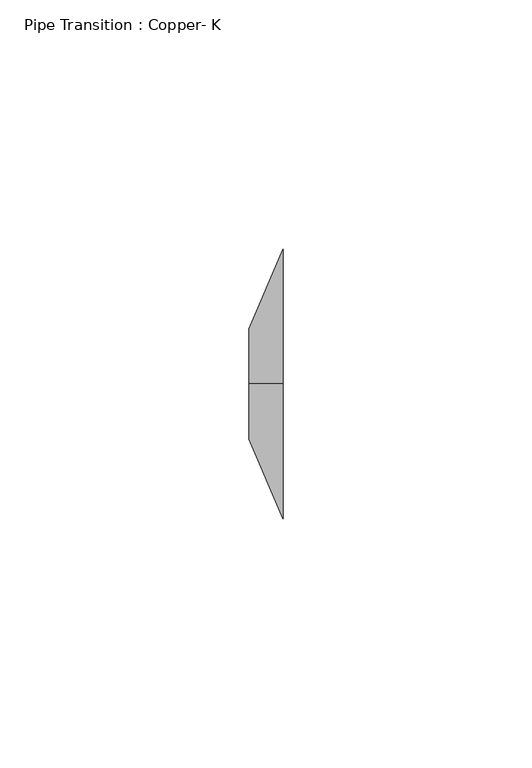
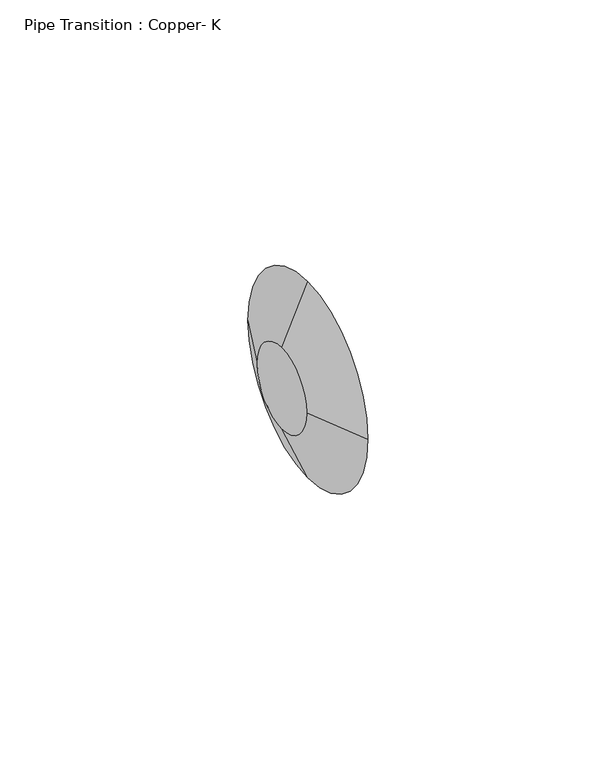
"""IFC4 building model written with IfcOpenShell, lengths in millimetres: pipe fitting geometry, Pipe Transition : Copper- K."""

from ifc_helpers import new_model, si_unit, frame, origin, place, context, project, spatial, polyline, circle_curve, source, transform, mapped, element, save
from ifc_brep_helpers import plane_surface, revolved_surface, advanced_brep


def pipe_transition_copper_k_7e8567c1(model_context):
    return source(origin(), model_context, "Body", "AdvancedBrep", [
        advanced_brep(
        [(6.746875, 0.0, 26.9875), (6.746875, -26.9875, 0.0), (6.746875, 0.0, -26.9875), (6.746875, 26.9875, 0.0), (0.0, 0.0, 11.1125), (0.0, 11.1125, 0.0), (0.0, 0.0, -11.1125), (0.0, -11.1125, 0.0)],
        [
            (0, 1, circle_curve(frame((6.746875, 0.0, 0.0), z_axis=(1.0, 0.0, 0.0), x_axis=(0.0, 0.0, 1.0)), 26.9875)),
            (1, 2, circle_curve(frame((6.746875, 0.0, 0.0), z_axis=(1.0, 0.0, 0.0), x_axis=(0.0, -1.0, 0.0)), 26.9875)),
            (2, 3, circle_curve(frame((6.746875, 0.0, 0.0), z_axis=(1.0, 0.0, 0.0), x_axis=(0.0, 0.0, -1.0)), 26.9875)),
            (3, 0, circle_curve(frame((6.746875, 0.0, 0.0), z_axis=(1.0, 0.0, 0.0), x_axis=(0.0, 1.0, 0.0)), 26.9875)),
            (4, 5, circle_curve(frame((0.0, 0.0, 0.0), z_axis=(-1.0, 0.0, 0.0), x_axis=(0.0, 1.0, 0.0)), 11.1125)),
            (5, 6, circle_curve(frame((0.0, 0.0, 0.0), z_axis=(-1.0, 0.0, 0.0), x_axis=(0.0, 0.0, -1.0)), 11.1125)),
            (6, 7, circle_curve(frame((0.0, 0.0, 0.0), z_axis=(-1.0, 0.0, 0.0), x_axis=(0.0, -1.0, 0.0)), 11.1125)),
            (7, 4, circle_curve(frame((0.0, 0.0, 0.0), z_axis=(-1.0, 0.0, 0.0), x_axis=(0.0, 0.0, 1.0)), 11.1125)),
            (7, 1),
            (0, 4),
            (6, 2),
            (5, 3),
        ],
        [
            plane_surface(frame((6.746875, 0.0, 0.0), z_axis=(1.0, 0.0, 0.0), x_axis=(0.0, -1.0, 0.0))),
            plane_surface(frame((0.0, 0.0, 0.0), z_axis=(-1.0, 0.0, 0.0), x_axis=(0.0, -1.0, 0.0))),
            revolved_surface(polyline([(0.0, -11.1125, 0.0), (6.746874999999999, -26.9875, 0.0)]), (-4.7228125, 0.0, 0.0), (1.0, 0.0, 0.0)),
            revolved_surface(polyline([(0.0, 0.0, -11.1125), (6.746874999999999, 0.0, -26.9875)]), (-4.7228125, 0.0, 0.0), (1.0, 0.0, 0.0)),
            revolved_surface(polyline([(0.0, 11.1125, 0.0), (6.746874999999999, 26.9875, 0.0)]), (-4.7228125, 0.0, 0.0), (1.0, 0.0, 0.0)),
            revolved_surface(polyline([(0.0, 0.0, 11.1125), (6.746874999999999, 0.0, 26.9875)]), (-4.7228125, 0.0, 0.0), (1.0, 0.0, 0.0)),
        ],
        [
            (0, [[1, 2, 3, 4]]),
            (1, [[5, 6, 7, 8]]),
            (2, [[-8, 9, -1, 10]]),
            (3, [[-7, 11, -2, -9]]),
            (4, [[-6, 12, -3, -11]]),
            (5, [[-5, -10, -4, -12]]),
        ],
    ),
        advanced_brep(
        [(6.746875, 0.0, 26.9875), (6.746875, -26.9875, 0.0), (6.746875, 0.0, -26.9875), (6.746875, 26.9875, 0.0), (0.0, 0.0, 11.1125), (0.0, 11.1125, 0.0), (0.0, 0.0, -11.1125), (0.0, -11.1125, 0.0)],
        [
            (0, 1, circle_curve(frame((6.746875, 0.0, 0.0), z_axis=(1.0, 0.0, -1.2427890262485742e-12), x_axis=(1.2427614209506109e-12, 0.0, 1.0)), 26.9875)),
            (1, 2, circle_curve(frame((6.746875, 0.0, 0.0), z_axis=(1.0, 0.0, -1.1926330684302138e-12), x_axis=(0.0, -1.0, 0.0)), 26.9875)),
            (2, 3, circle_curve(frame((6.746875, 0.0, 0.0), z_axis=(1.0, 0.0, -1.9352791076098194e-12), x_axis=(-1.9352552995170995e-12, 0.0, -1.0)), 26.9875)),
            (3, 0, circle_curve(frame((6.746875, 0.0, 0.0), z_axis=(1.0, 0.0, 0.0), x_axis=(0.0, 1.0, 0.0)), 26.9875)),
            (4, 5, circle_curve(frame((0.0, 0.0, 0.0), z_axis=(-1.0, 0.0, 0.0), x_axis=(0.0, 1.0, 0.0)), 11.1125)),
            (5, 6, circle_curve(frame((0.0, 0.0, 0.0), z_axis=(-1.0, 0.0, 1.9352791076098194e-12), x_axis=(-1.9352552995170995e-12, 0.0, -1.0)), 11.1125)),
            (6, 7, circle_curve(frame((0.0, 0.0, 0.0), z_axis=(-1.0, 0.0, 1.1926330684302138e-12), x_axis=(0.0, -1.0, 0.0)), 11.1125)),
            (7, 4, circle_curve(frame((0.0, 0.0, 0.0), z_axis=(-1.0, 0.0, 1.2427890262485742e-12), x_axis=(1.2427614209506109e-12, 0.0, 1.0)), 11.1125)),
            (7, 1),
            (0, 4),
            (6, 2),
            (5, 3),
        ],
        [
            plane_surface(frame((6.746875, 0.0, 0.0), z_axis=(1.0, 0.0, 0.0), x_axis=(0.0, -1.0, 0.0))),
            plane_surface(frame((0.0, 0.0, 0.0), z_axis=(-1.0, 0.0, 0.0), x_axis=(0.0, -1.0, 0.0))),
            revolved_surface(polyline([(-1.3810286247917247e-11, -11.112499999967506, 0.0), (6.746874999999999, -26.9875, 0.0)]), (-4.7228125, 0.0, 0.0), (1.0, 0.0, -1.2427890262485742e-12)),
            revolved_surface(polyline([(-1.3253398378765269e-11, 0.0, -11.112499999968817), (6.746874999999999, 0.0, -26.9875)]), (-4.7228125, 0.0, 0.0), (1.0, 0.0, -1.1926330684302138e-12)),
            revolved_surface(polyline([(0.0, 11.1125, 0.0), (6.7468750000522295, 26.987500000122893, 0.0)]), (-4.7228125, 0.0, 0.0), (1.0, 0.0, -1.9352791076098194e-12)),
            revolved_surface(polyline([(0.0, 0.0, 11.1125), (6.746874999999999, 0.0, 26.9875)]), (-4.7228125, 0.0, 0.0), (1.0, 0.0, 0.0)),
        ],
        [
            (0, [[1, 2, 3, 4]]),
            (1, [[5, 6, 7, 8]]),
            (2, [[-8, 9, -1, 10]]),
            (3, [[-7, 11, -2, -9]]),
            (4, [[-6, 12, -3, -11]]),
            (5, [[-5, -10, -4, -12]]),
        ],
    ),
    ])


if __name__ == "__main__":
    model = new_model("IFC4")
    model_context = context("Model", 3, world=origin())
    ifc_project = project(units=[si_unit("LENGTHUNIT", "METRE", prefix="MILLI")], contexts=[model_context])
    site = spatial("IfcSite", under=ifc_project)
    building = spatial("IfcBuilding", under=site)
    placement = place(None, origin())
    pipe_transition_copper_k_shape = pipe_transition_copper_k_7e8567c1(model_context)
    element("IfcPipeFitting", 1, ObjectType="Pipe Transition : Copper- K", at=placement, inside=building, context=model_context, shape_type="MappedRepresentation", body=[
        mapped(pipe_transition_copper_k_shape, transform((0.0, 0.0, 0.0), x_axis=(1.0, 0.0, 0.0), y_axis=(0.0, 1.0, 0.0), z_axis=(0.0, 0.0, 1.0))),
    ])
    save(model, "model.ifc")
